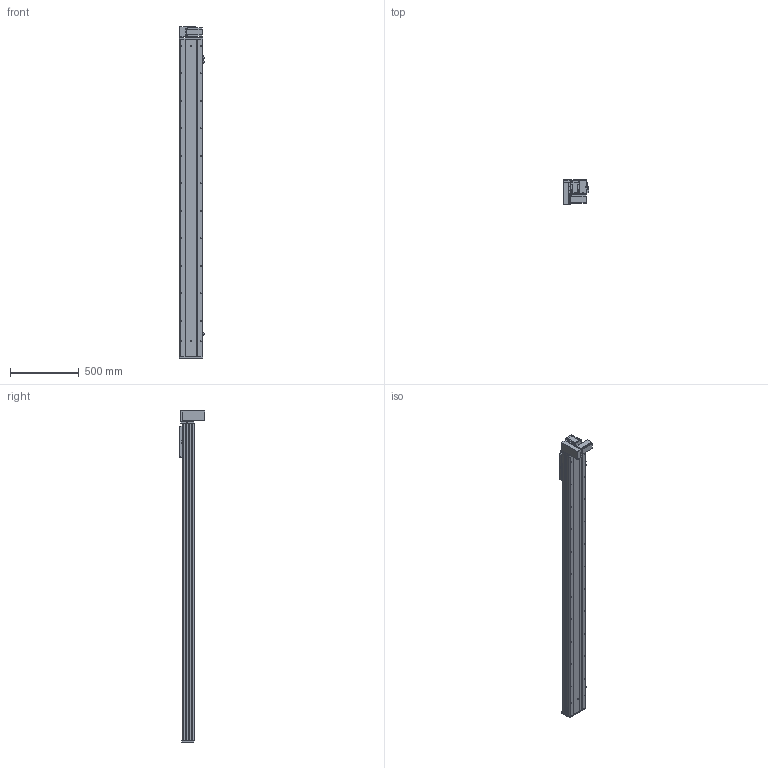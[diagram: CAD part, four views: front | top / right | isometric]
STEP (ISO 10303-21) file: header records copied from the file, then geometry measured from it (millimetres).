
FILE_DESCRIPTION (( 'STEP AP203' ), '1' );
FILE_NAME ('Y170CB-D105-S2000-BM-P400W.STEP', '2020-02-20T07:23:04', ( '微软用户' ), ( '微软中国' ), 'SwSTEP 2.0', 'SolidWorks 2017', '' );
FILE_SCHEMA (( 'CONFIG_CONTROL_DESIGN' ));
Length unit declared in the file: millimetre
Products named in the file (18): 00B-俋欶BM--163; 70CB--耜裔; 70B喘謫眊----; 70C-雄赽釱-奻-; B-源倛裔啣; 0C--雄赽釱俋欶-170; 0B-萇儂楊擘啣; 70CB-詩湍--; san松下电机400不带刹车----; Y100-135俋离換覜ん--; 70CB-掛极-; Y170CB-陔俋离換覜結え---; Y170CB-D105-S2000-BM-P400W; --70CB --喘謫眊楊擘啣-; Y1埴倛裔; 70CB-耜裔啣-; 17B-耜蚾蟀諉啣----; 70C--詩湍揤踡え-
Assembly tree (21 placements, depth 2):
  Y170CB-D105-S2000-BM-P400W
    B-源倛裔啣
    0B-萇儂楊擘啣
    san松下电机400不带刹车----
    70CB-掛极-
    --70CB --喘謫眊楊擘啣-
    70CB-耜裔啣-  x2
    70C--詩湍揤踡え-  x2
    70CB--耜裔
    70C-雄赽釱-奻-
    0C--雄赽釱俋欶-170
    70CB-詩湍--
    Y100-135俋离換覜ん--  x3
    Y170CB-陔俋离換覜結え---
    Y1埴倛裔
    17B-耜蚾蟀諉啣----
    00B-俋欶BM--163
    70B喘謫眊----
Bounding box: 183.5 x 184 x 2416 mm (x, y, z)
Volume: 10476905.8 mm3; surface area: 3777392.8 mm2
Topology: 21 solids, 21 shells, 1047 faces, 2813 edges, 1866 vertices
Faces by surface type: cylinder 561, plane 462, cone 24
Entity records: 33496 total; most frequent: CARTESIAN_POINT 6156, DIRECTION 5450, ORIENTED_EDGE 5108, EDGE_CURVE 2554, AXIS2_PLACEMENT_3D 2008, VERTEX_POINT 1696, LINE 1434, VECTOR 1434
